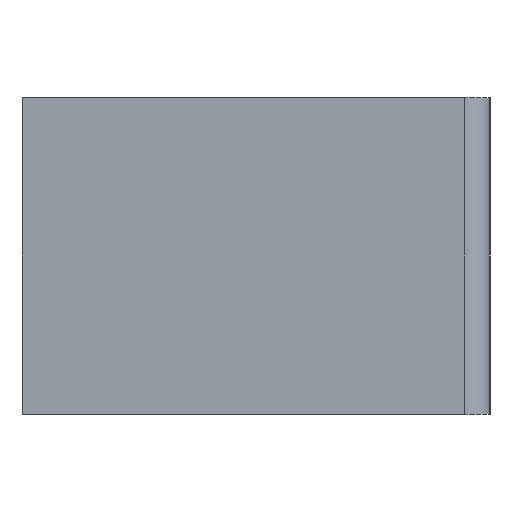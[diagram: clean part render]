
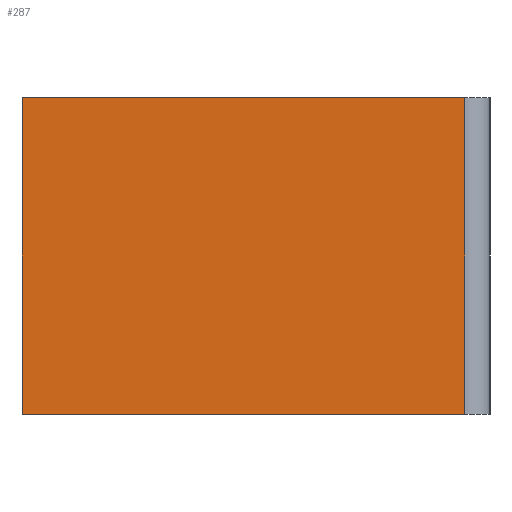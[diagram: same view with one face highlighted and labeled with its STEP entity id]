
A CAD part, left-side view. The second image highlights one B-rep face of the part: STEP entity #287.
In plain terms, the highlighted planar face has unit normal (-1, 0, 0).
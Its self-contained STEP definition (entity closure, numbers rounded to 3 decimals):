
#113 = EDGE_CURVE( '', #125, #137, #307, .T. );
#125 = VERTEX_POINT( '', #320 );
#129 = EDGE_CURVE( '', #165, #125, #325, .T. );
#137 = VERTEX_POINT( '', #333 );
#165 = VERTEX_POINT( '', #364 );
#195 = EDGE_CURVE( '', #231, #137, #398, .T. );
#231 = VERTEX_POINT( '', #437 );
#259 = EDGE_CURVE( '', #165, #231, #470, .T. );
#287 = ADVANCED_FACE( '', ( #500 ), #501, .T. );
#307 = LINE( '', #512, #513 );
#320 = CARTESIAN_POINT( '', ( -6.5, 0., -12.5 ) );
#325 = LINE( '', #535, #536 );
#333 = CARTESIAN_POINT( '', ( -6.5, -35., -12.5 ) );
#364 = CARTESIAN_POINT( '', ( -6.5, 0., 12.5 ) );
#398 = LINE( '', #633, #634 );
#437 = CARTESIAN_POINT( '', ( -6.5, -35., 12.5 ) );
#470 = LINE( '', #733, #734 );
#500 = FACE_OUTER_BOUND( '', #774, .T. );
#501 = PLANE( '', #775 );
#512 = CARTESIAN_POINT( '', ( -6.5, 0., -12.5 ) );
#513 = VECTOR( '', #780, 1. );
#535 = CARTESIAN_POINT( '', ( -6.5, 0., 12.5 ) );
#536 = VECTOR( '', #799, 1. );
#633 = CARTESIAN_POINT( '', ( -6.5, -35., 12.5 ) );
#634 = VECTOR( '', #867, 1. );
#733 = CARTESIAN_POINT( '', ( -6.5, 0., 12.5 ) );
#734 = VECTOR( '', #960, 1. );
#774 = EDGE_LOOP( '', ( #993, #994, #995, #996 ) );
#775 = AXIS2_PLACEMENT_3D( '', #997, #998, #999 );
#780 = DIRECTION( '', ( 0., -1., 0. ) );
#799 = DIRECTION( '', ( 0., 0., -1. ) );
#867 = DIRECTION( '', ( 0., 0., -1. ) );
#960 = DIRECTION( '', ( 0., -1., 0. ) );
#993 = ORIENTED_EDGE( '', *, *, #113, .T. );
#994 = ORIENTED_EDGE( '', *, *, #195, .F. );
#995 = ORIENTED_EDGE( '', *, *, #259, .F. );
#996 = ORIENTED_EDGE( '', *, *, #129, .T. );
#997 = CARTESIAN_POINT( '', ( -6.5, 0., 12.5 ) );
#998 = DIRECTION( '', ( -1., 0., 0. ) );
#999 = DIRECTION( '', ( 0., 1., 0. ) );
